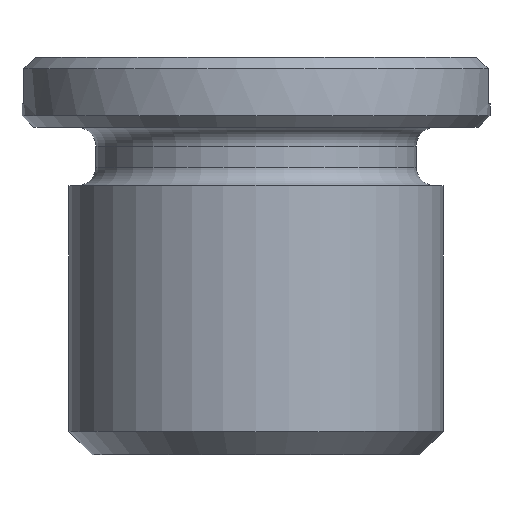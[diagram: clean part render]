
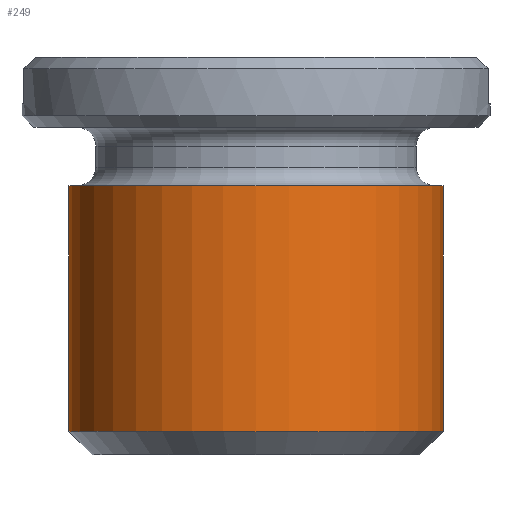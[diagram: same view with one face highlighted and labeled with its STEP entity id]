
A CAD part, front view. The second image highlights one B-rep face of the part: STEP entity #249.
In plain terms, the highlighted cylindrical face has radius 8 mm (diameter 16 mm), a partial arc.
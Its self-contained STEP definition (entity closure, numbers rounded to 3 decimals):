
#30 = CARTESIAN_POINT ( 'NONE',  ( -8., 0., -17.526 ) ) ;
#133 = VECTOR ( 'NONE', #721, 1000. ) ;
#172 = CIRCLE ( 'NONE', #676, 8. ) ;
#212 = DIRECTION ( 'NONE',  ( 0., 0., -1. ) ) ;
#232 = CARTESIAN_POINT ( 'NONE',  ( -8., 0., -13. ) ) ;
#234 = ORIENTED_EDGE ( 'NONE', *, *, #924, .T. ) ;
#249 = ADVANCED_FACE ( 'NONE', ( #787 ), #257, .T. ) ;
#257 = CYLINDRICAL_SURFACE ( 'NONE', #606, 8. ) ;
#313 = VERTEX_POINT ( 'NONE', #232 ) ;
#333 = DIRECTION ( 'NONE',  ( 0., 0., -1. ) ) ;
#348 = CARTESIAN_POINT ( 'NONE',  ( 8., 0., -13. ) ) ;
#353 = VERTEX_POINT ( 'NONE', #754 ) ;
#356 = EDGE_LOOP ( 'NONE', ( #581, #528, #234, #623 ) ) ;
#360 = CARTESIAN_POINT ( 'NONE',  ( 0., 0., -13. ) ) ;
#380 = DIRECTION ( 'NONE',  ( 0., 0., -1. ) ) ;
#383 = CARTESIAN_POINT ( 'NONE',  ( 8., 0., -17.526 ) ) ;
#441 = DIRECTION ( 'NONE',  ( 0., 0., -1. ) ) ;
#504 = CARTESIAN_POINT ( 'NONE',  ( 0., 0., -17.526 ) ) ;
#528 = ORIENTED_EDGE ( 'NONE', *, *, #928, .T. ) ;
#564 = AXIS2_PLACEMENT_3D ( 'NONE', #639, #380, #1080 ) ;
#581 = ORIENTED_EDGE ( 'NONE', *, *, #1005, .F. ) ;
#598 = DIRECTION ( 'NONE',  ( -1., 0., 0. ) ) ;
#606 = AXIS2_PLACEMENT_3D ( 'NONE', #504, #333, #598 ) ;
#623 = ORIENTED_EDGE ( 'NONE', *, *, #856, .F. ) ;
#632 = VERTEX_POINT ( 'NONE', #348 ) ;
#639 = CARTESIAN_POINT ( 'NONE',  ( 0., 0., -2.5 ) ) ;
#676 = AXIS2_PLACEMENT_3D ( 'NONE', #360, #441, #796 ) ;
#682 = VERTEX_POINT ( 'NONE', #942 ) ;
#721 = DIRECTION ( 'NONE',  ( 0., 0., -1. ) ) ;
#754 = CARTESIAN_POINT ( 'NONE',  ( -8., 0., -2.5 ) ) ;
#787 = FACE_OUTER_BOUND ( 'NONE', #356, .T. ) ;
#796 = DIRECTION ( 'NONE',  ( -1., 0., 0. ) ) ;
#818 = LINE ( 'NONE', #30, #133 ) ;
#839 = LINE ( 'NONE', #383, #984 ) ;
#856 = EDGE_CURVE ( 'NONE', #632, #313, #172, .T. ) ;
#924 = EDGE_CURVE ( 'NONE', #353, #313, #818, .T. ) ;
#928 = EDGE_CURVE ( 'NONE', #682, #353, #1076, .T. ) ;
#942 = CARTESIAN_POINT ( 'NONE',  ( 8., 0., -2.5 ) ) ;
#984 = VECTOR ( 'NONE', #212, 1000. ) ;
#1005 = EDGE_CURVE ( 'NONE', #682, #632, #839, .T. ) ;
#1076 = CIRCLE ( 'NONE', #564, 8. ) ;
#1080 = DIRECTION ( 'NONE',  ( -1., 0., 0. ) ) ;
